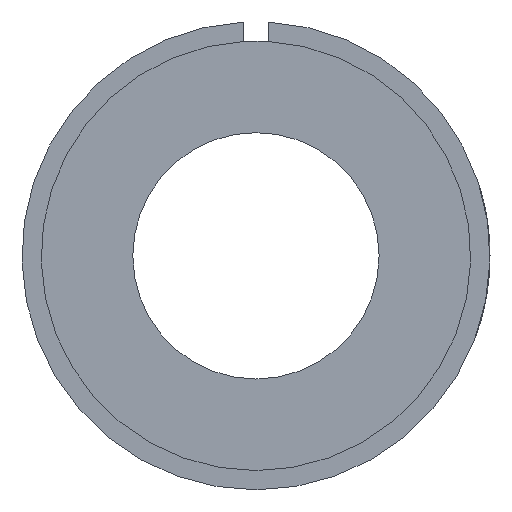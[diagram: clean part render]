
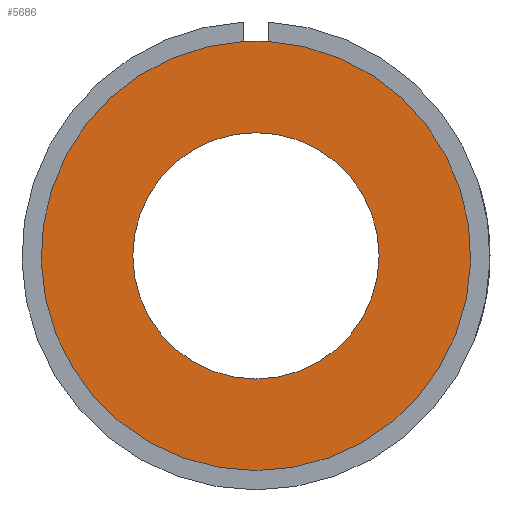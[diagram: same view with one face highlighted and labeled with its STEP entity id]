
A CAD part, left-side view. The second image highlights one B-rep face of the part: STEP entity #5686.
In plain terms, the highlighted planar face has unit normal (-1, 0, 0).
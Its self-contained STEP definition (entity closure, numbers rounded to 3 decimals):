
#126=PLANE('',#6130);
#580=CIRCLE('',#6105,5.);
#593=CIRCLE('',#6131,8.717);
#594=CIRCLE('',#6132,8.717);
#979=ORIENTED_EDGE('',*,*,#2690,.F.);
#980=ORIENTED_EDGE('',*,*,#2691,.F.);
#981=ORIENTED_EDGE('',*,*,#2655,.T.);
#2655=EDGE_CURVE('',#3516,#3516,#580,.F.);
#2690=EDGE_CURVE('',#3539,#3540,#593,.T.);
#2691=EDGE_CURVE('',#3540,#3539,#594,.T.);
#3516=VERTEX_POINT('',#8812);
#3539=VERTEX_POINT('',#8883);
#3540=VERTEX_POINT('',#8884);
#4874=EDGE_LOOP('',(#979,#980));
#4875=EDGE_LOOP('',(#981));
#5271=FACE_BOUND('',#4874,.T.);
#5272=FACE_BOUND('',#4875,.T.);
#5686=ADVANCED_FACE('',(#5271,#5272),#126,.T.);
#6105=AXIS2_PLACEMENT_3D('',#8811,#6693,#6694);
#6130=AXIS2_PLACEMENT_3D('',#8881,#6765,#6766);
#6131=AXIS2_PLACEMENT_3D('',#8882,#6767,#6768);
#6132=AXIS2_PLACEMENT_3D('',#8885,#6769,#6770);
#6693=DIRECTION('',(-1.,0.,0.));
#6694=DIRECTION('',(0.,0.,1.));
#6765=DIRECTION('',(-1.,0.,0.));
#6766=DIRECTION('',(0.,0.,-1.));
#6767=DIRECTION('',(1.,0.,0.));
#6768=DIRECTION('',(0.,0.,-1.));
#6769=DIRECTION('',(1.,0.,0.));
#6770=DIRECTION('',(0.,0.,-1.));
#8811=CARTESIAN_POINT('',(-13.5,0.,0.));
#8812=CARTESIAN_POINT('',(-13.5,0.,5.));
#8881=CARTESIAN_POINT('',(-13.5,0.,0.));
#8882=CARTESIAN_POINT('',(-13.5,0.,0.));
#8883=CARTESIAN_POINT('',(-13.5,0.5,8.703));
#8884=CARTESIAN_POINT('',(-13.5,-0.5,8.703));
#8885=CARTESIAN_POINT('',(-13.5,0.,0.));
